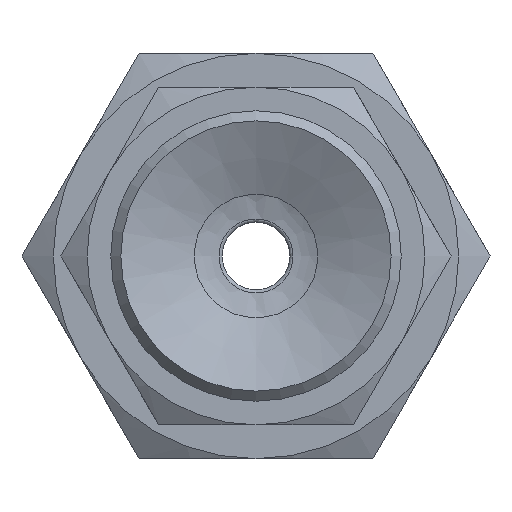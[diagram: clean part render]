
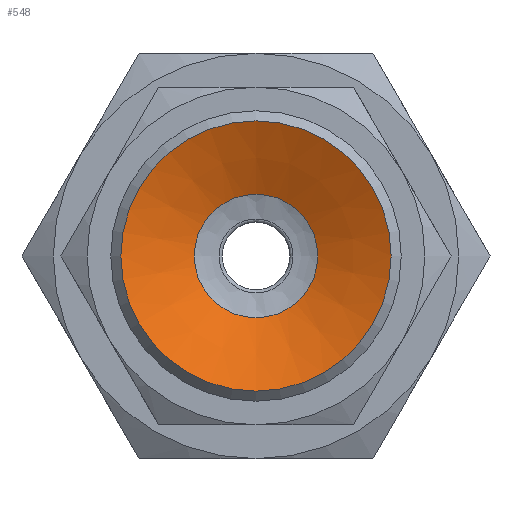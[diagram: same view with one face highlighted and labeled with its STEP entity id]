
A CAD part, front view. The second image highlights one B-rep face of the part: STEP entity #548.
In plain terms, the highlighted conical face has half-angle 65 degrees and reference radius 1.427 mm.
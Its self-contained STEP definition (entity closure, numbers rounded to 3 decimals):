
#548=ADVANCED_FACE('',(#802,#803),#804,.F.);
#802=FACE_BOUND('',#1099,.T.);
#803=FACE_OUTER_BOUND('',#1100,.T.);
#804=CONICAL_SURFACE('',#1101,1.427,1.134);
#1099=EDGE_LOOP('',(#1821));
#1100=EDGE_LOOP('',(#1822));
#1101=AXIS2_PLACEMENT_3D('',#1823,#1824,#1825);
#1821=ORIENTED_EDGE('',*,*,#2140,.T.);
#1822=ORIENTED_EDGE('',*,*,#2127,.T.);
#1823=CARTESIAN_POINT('',(0.0,7.096,0.));
#1824=DIRECTION('',(-0.0,-1.0,0.));
#1825=DIRECTION('',(0.0,0.,-1.0));
#2127=EDGE_CURVE('',#2443,#2443,#2444,.T.);
#2140=EDGE_CURVE('',#2469,#2469,#2470,.T.);
#2443=VERTEX_POINT('',#3143);
#2444=CIRCLE('',#3144,4.0);
#2469=VERTEX_POINT('',#3169);
#2470=CIRCLE('',#3170,1.828);
#3143=CARTESIAN_POINT('',(0.0,5.896,-4.0));
#3144=AXIS2_PLACEMENT_3D('',#3469,#3470,#3471);
#3169=CARTESIAN_POINT('',(0.0,6.909,-1.828));
#3170=AXIS2_PLACEMENT_3D('',#3508,#3509,#3510);
#3469=CARTESIAN_POINT('',(0.0,5.896,0.0));
#3470=DIRECTION('',(0.0,-1.0,0.));
#3471=DIRECTION('',(0.0,0.,-1.0));
#3508=CARTESIAN_POINT('',(0.0,6.909,0.0));
#3509=DIRECTION('',(0.0,1.0,0.));
#3510=DIRECTION('',(0.0,0.,-1.0));
